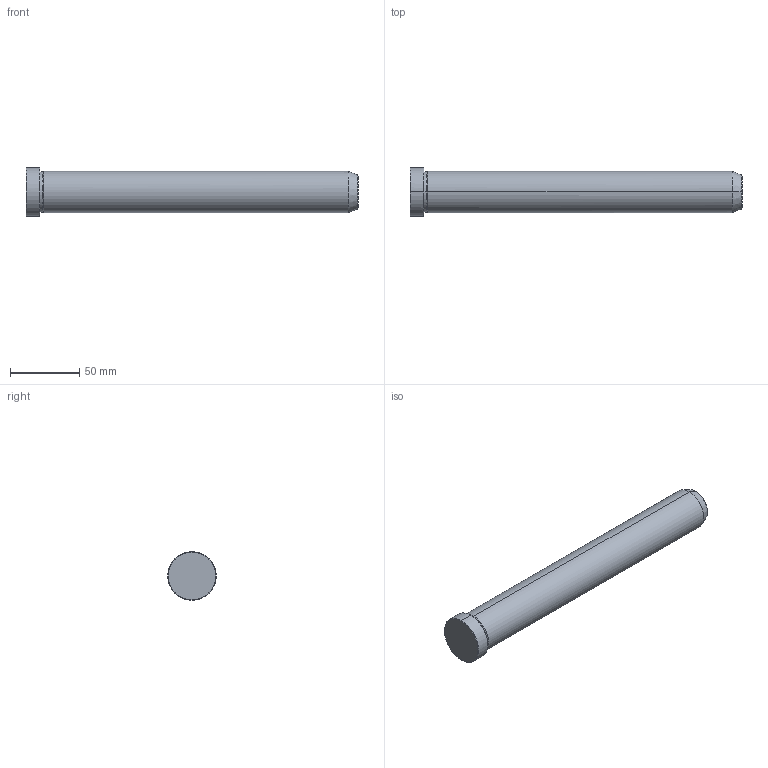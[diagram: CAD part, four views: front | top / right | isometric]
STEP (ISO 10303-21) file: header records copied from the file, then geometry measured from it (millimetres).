
FILE_DESCRIPTION(('CATIA V5 STEP Exchange'),'2;1');
FILE_NAME('C:\Users\Utente\Desktop\IO LAVORO\3D X SITO CF\X SITO\PLASTICA\549\549-30X240.stp','2021-12-17T19:34:09+00:00',('none'),('none'),'CATIA Version 5 Release 20 GA (IN-10)','CATIA V5 STEP AP203','none');
FILE_SCHEMA(('CONFIG_CONTROL_DESIGN'));
Length unit declared in the file: millimetre
Products named in the file (1): 549-30X240
Bounding box: 240 x 35 x 35 mm (x, y, z)
Volume: 171195.4 mm3; surface area: 24443.7 mm2
Topology: 1 solids, 1 shells, 19 faces, 56 edges, 40 vertices
Faces by surface type: cone 8, cylinder 6, plane 3, torus 2
Entity records: 736 total; most frequent: CARTESIAN_POINT 192, ORIENTED_EDGE 112, DIRECTION 86, EDGE_CURVE 56, AXIS2_PLACEMENT_3D 54, VERTEX_POINT 40, CIRCLE 34, EDGE_LOOP 20
